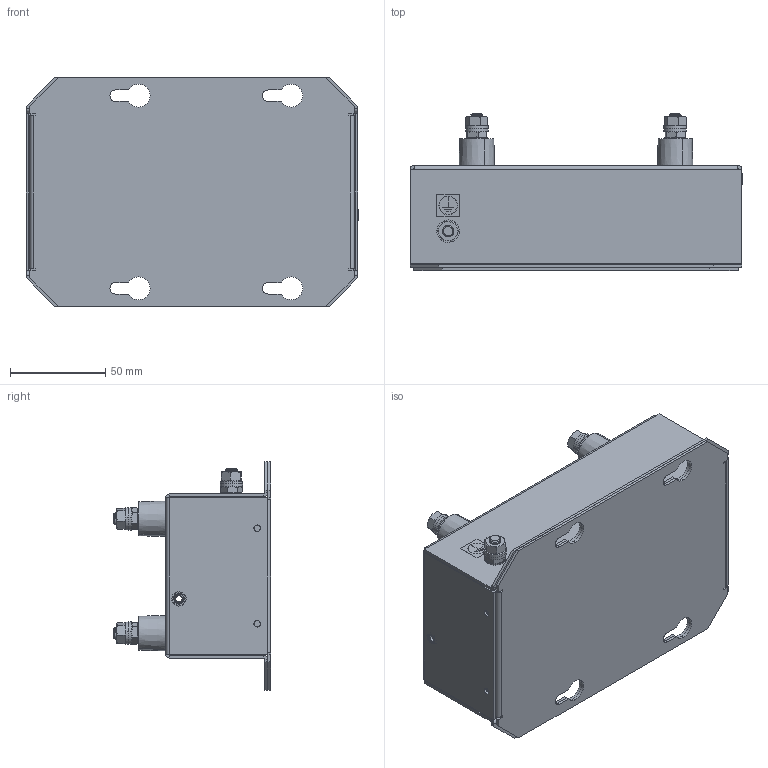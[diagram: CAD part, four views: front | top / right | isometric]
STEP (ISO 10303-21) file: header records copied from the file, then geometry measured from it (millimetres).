
FILE_DESCRIPTION (( 'STEP AP214' ), '1' );
FILE_NAME ('MDF IHF18-50.STEP', '2015-01-22T10:58:40', ( '' ), ( '' ), 'SwSTEP 2.0', 'SolidWorks 2014', '' );
FILE_SCHEMA (( 'AUTOMOTIVE_DESIGN' ));
Length unit declared in the file: millimetre
Products named in the file (22): WSH128; WSH130_WSH130; NUT60_NUT61; NUT61_NUT61; TER710B - SPECIAL; TER44; BOX58A; BOX58lid; PEM BSO-M4-16 ZI--S_PEM BSO-M4-16 ZI--S; PEM B-M4-1 ZI--C_PEM B-M4-1 ZI--C; Blind Fastener_PMM_PEM B-M4-1 ZI--C; PEM FH-M6-15 ZI--S_PEM FH-M6-15 ZI--S; LBL47; BOX58; MDF IHF18-50
Assembly tree (42 placements, depth 3):
  WSH130_WSH130
  NUT61_NUT61
  MDF IHF18-50
    BOX58A
      BOX58
      PEM FH-M6-15 ZI--S_PEM FH-M6-15 ZI--S
      Blind Fastener_PMM_PEM B-M4-1 ZI--C
      PEM B-M4-1 ZI--C_PEM B-M4-1 ZI--C
      PEM BSO-M4-16 ZI--S_PEM BSO-M4-16 ZI--S
      PEM BSO-M4-16 ZI--S_PEM BSO-M4-16 ZI--S
      BOX58lid
    TER44
    TER710B - SPECIAL  x4
    NUT61_NUT61  x5
    NUT60_NUT61  x5
    WSH130_WSH130  x5
    WSH128  x10
    TER44
    TER44
    TER44
    LBL47
  WSH128
Bounding box: 174 x 82.3 x 120 mm (x, y, z)
Volume: 118232.5 mm3; surface area: 153272.7 mm2
Topology: 42 solids, 42 shells, 1613 faces, 4001 edges, 2486 vertices
Faces by surface type: cylinder 648, plane 528, cone 427, bspline 8, torus 2
Entity records: 46441 total; most frequent: CARTESIAN_POINT 22426, ORIENTED_EDGE 5042, DIRECTION 4587, EDGE_CURVE 2521, AXIS2_PLACEMENT_3D 1615, VERTEX_POINT 1614, LINE 1357, VECTOR 1357
